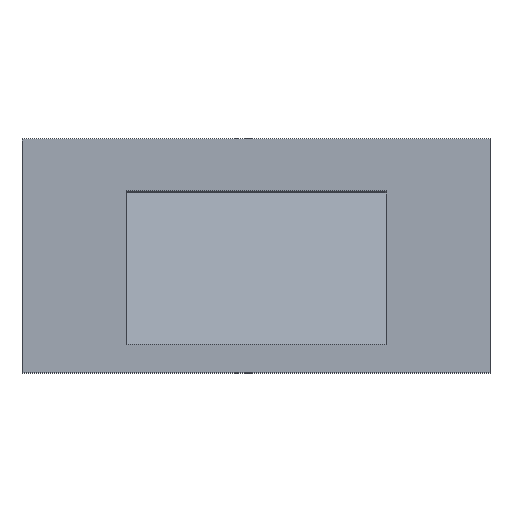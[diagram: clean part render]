
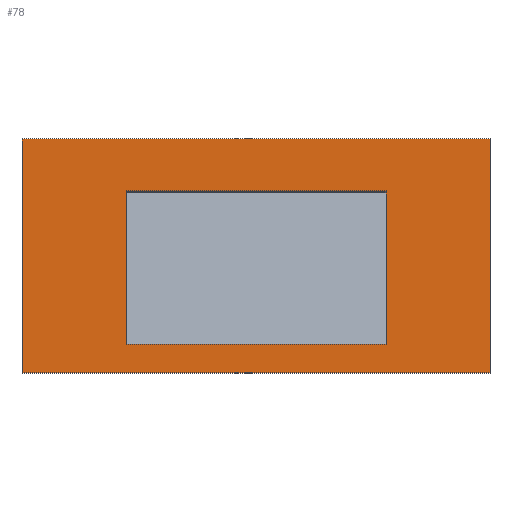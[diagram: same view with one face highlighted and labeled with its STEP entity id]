
A CAD part, top view. The second image highlights one B-rep face of the part: STEP entity #78.
In plain terms, the highlighted planar face has unit normal (0, 0, 1).
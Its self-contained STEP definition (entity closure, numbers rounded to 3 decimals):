
#43=FACE_BOUND('',#211,.T.);
#44=FACE_BOUND('',#212,.T.);
#78=ADVANCED_FACE('',(#43,#44),#125,.F.);
#125=PLANE('',#923);
#211=EDGE_LOOP('',(#353,#354,#355,#356));
#212=EDGE_LOOP('',(#357,#358,#359,#360));
#353=ORIENTED_EDGE('',*,*,#612,.F.);
#354=ORIENTED_EDGE('',*,*,#653,.F.);
#355=ORIENTED_EDGE('',*,*,#651,.T.);
#356=ORIENTED_EDGE('',*,*,#654,.T.);
#357=ORIENTED_EDGE('',*,*,#581,.T.);
#358=ORIENTED_EDGE('',*,*,#611,.T.);
#359=ORIENTED_EDGE('',*,*,#655,.F.);
#360=ORIENTED_EDGE('',*,*,#656,.F.);
#498=VERTEX_POINT('',#1187);
#502=VERTEX_POINT('',#1194);
#528=VERTEX_POINT('',#1259);
#529=VERTEX_POINT('',#1263);
#530=VERTEX_POINT('',#1264);
#556=VERTEX_POINT('',#1369);
#557=VERTEX_POINT('',#1371);
#558=VERTEX_POINT('',#1377);
#581=EDGE_CURVE('',#498,#502,#699,.T.);
#611=EDGE_CURVE('',#502,#528,#728,.T.);
#612=EDGE_CURVE('',#529,#530,#729,.T.);
#651=EDGE_CURVE('',#557,#556,#763,.T.);
#653=EDGE_CURVE('',#557,#529,#765,.T.);
#654=EDGE_CURVE('',#556,#530,#766,.T.);
#655=EDGE_CURVE('',#558,#528,#767,.T.);
#656=EDGE_CURVE('',#498,#558,#768,.T.);
#699=LINE('',#1195,#805);
#728=LINE('',#1260,#834);
#729=LINE('',#1262,#835);
#763=LINE('',#1370,#869);
#765=LINE('',#1374,#871);
#766=LINE('',#1375,#872);
#767=LINE('',#1376,#873);
#768=LINE('',#1378,#874);
#805=VECTOR('',#969,1.);
#834=VECTOR('',#1010,1.);
#835=VECTOR('',#1013,1.);
#869=VECTOR('',#1067,1.);
#871=VECTOR('',#1071,1.);
#872=VECTOR('',#1072,1.);
#873=VECTOR('',#1073,1.);
#874=VECTOR('',#1074,1.);
#923=AXIS2_PLACEMENT_3D('',#1379,#1075,#1076);
#969=DIRECTION('',(0.,-1.,0.));
#1010=DIRECTION('',(-1.,0.,0.));
#1013=DIRECTION('',(-1.,0.,0.));
#1067=DIRECTION('',(-1.,0.,0.));
#1071=DIRECTION('',(0.,-1.,0.));
#1072=DIRECTION('',(0.,-1.,0.));
#1073=DIRECTION('',(0.,-1.,0.));
#1074=DIRECTION('',(-1.,0.,0.));
#1075=DIRECTION('',(0.,0.,-1.));
#1076=DIRECTION('',(-1.,0.,0.));
#1187=CARTESIAN_POINT('',(250.,28.,0.));
#1194=CARTESIAN_POINT('',(250.,-267.,0.));
#1195=CARTESIAN_POINT('',(250.,128.,0.));
#1259=CARTESIAN_POINT('',(-250.,-267.,0.));
#1260=CARTESIAN_POINT('',(250.,-267.,0.));
#1262=CARTESIAN_POINT('',(250.,-322.,0.));
#1263=CARTESIAN_POINT('',(450.,-322.,0.));
#1264=CARTESIAN_POINT('',(-450.,-322.,0.));
#1369=CARTESIAN_POINT('',(-450.,128.,0.));
#1370=CARTESIAN_POINT('',(250.,128.,0.));
#1371=CARTESIAN_POINT('',(450.,128.,0.));
#1374=CARTESIAN_POINT('',(450.,128.,0.));
#1375=CARTESIAN_POINT('',(-450.,128.,0.));
#1376=CARTESIAN_POINT('',(-250.,128.,0.));
#1377=CARTESIAN_POINT('',(-250.,28.,0.));
#1378=CARTESIAN_POINT('',(250.,28.,0.));
#1379=CARTESIAN_POINT('',(250.,128.,0.));
